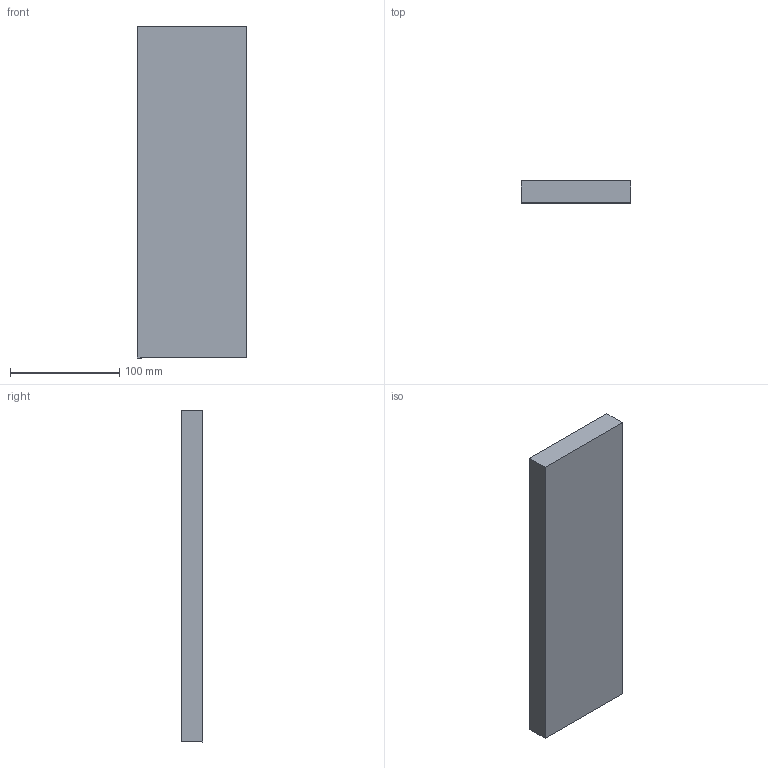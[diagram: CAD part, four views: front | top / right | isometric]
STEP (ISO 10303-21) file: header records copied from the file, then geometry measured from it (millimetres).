
FILE_DESCRIPTION (( 'STEP AP203' ), '1' );
FILE_NAME ('Isolation_Dessous.STEP', '2026-06-24T07:29:48', ( '' ), ( '' ), 'SwSTEP 2.0', 'SolidWorks 2024', '' );
FILE_SCHEMA (( 'CONFIG_CONTROL_DESIGN' ));
Length unit declared in the file: millimetre
Products named in the file (1): Isolation_Dessous
Bounding box: 100 x 20 x 304 mm (x, y, z)
Volume: 608000 mm3; surface area: 76960 mm2
Topology: 1 solids, 1 shells, 6 faces, 12 edges, 8 vertices
Faces by surface type: plane 6
Entity records: 231 total; most frequent: CARTESIAN_POINT 27, DIRECTION 26, ORIENTED_EDGE 24, VECTOR 12, EDGE_CURVE 12, LINE 12, VERTEX_POINT 8, PERSON_AND_ORGANIZATION 8
